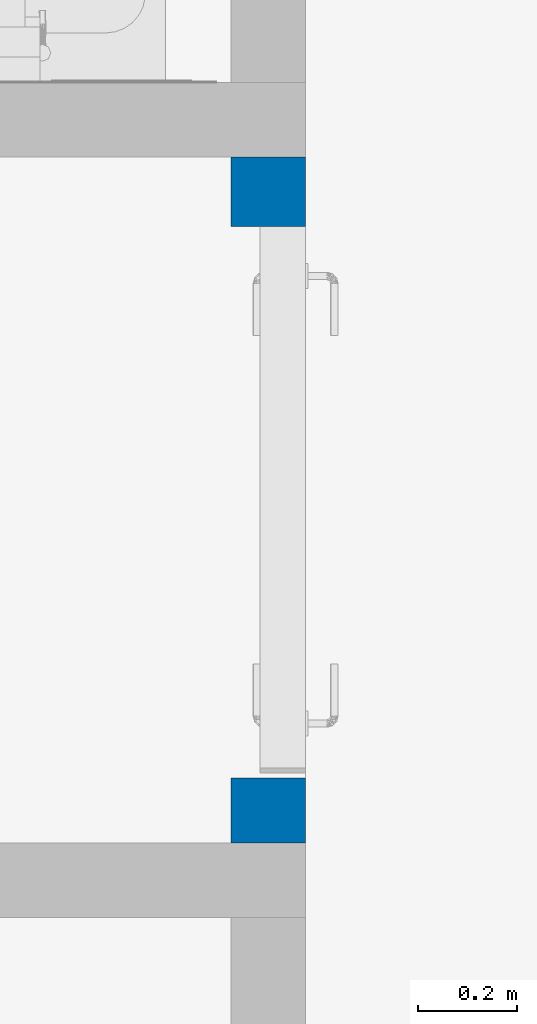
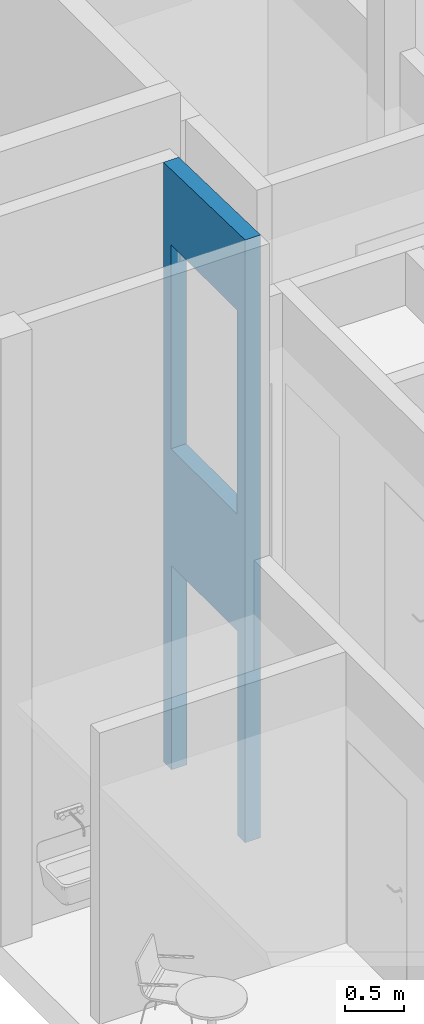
# One storey, part 6 of 58: 1 wall, 3 openings.
"""IFC2X3 building model written with IfcOpenShell, lengths in millimetres."""

from ifc_helpers import new_model, entity, si_unit, converted_unit, derived_unit, direction, frame, frame_2d, origin, place, context, subcontext, project, spatial, polyline, rectangle, extrude, clip, bounded_halfspace, material, layer, layer_set, layer_usage, type_object, element, save


model = new_model("IFC2X3")

# Units and contexts
model_context = context("Model", 3, precision=0.01, world=origin(), true_north=direction((0.7716245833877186, 0.6360782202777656)))
body_context = subcontext(model_context, "Body", "Model", "MODEL_VIEW")
ifc_project = project(units=[si_unit("LENGTHUNIT", "METRE", prefix="MILLI"), si_unit("AREAUNIT", "SQUARE_METRE"), converted_unit("PLANEANGLEUNIT", "DEGREE", entity("IfcPlaneAngleMeasure", 0.017453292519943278), si_unit("PLANEANGLEUNIT", "RADIAN"), dimensions=[0, 0, 0, 0, 0, 0, 0]), derived_unit("THERMALTRANSMITTANCEUNIT", [(si_unit("MASSUNIT", "GRAM", prefix="KILO"), 1), (si_unit("THERMODYNAMICTEMPERATUREUNIT", "KELVIN"), -1), (si_unit("TIMEUNIT", "SECOND"), -3)])], contexts=[model_context])

# Site, building, storey
site_placement = place(None, origin())
site = spatial("IfcSite", under=ifc_project, at=site_placement, Name="Default", CompositionType="ELEMENT")
building_placement = place(site_placement, origin())
building = spatial("IfcBuilding", under=site, at=building_placement, CompositionType="ELEMENT")
storey_placement = place(building_placement, frame((0.0, 0.0, 31140.0)))
storey = spatial("IfcBuildingStorey", under=building, at=storey_placement, Name="PLAN U1", CompositionType="ELEMENT", Elevation=31140.000000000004)

# Wall, openings
ifc_material = material(Name="Betong plasstøpt")
ifc_layer = layer(ifc_material, 150.0)
ifc_layer_set = layer_set([ifc_layer], Name="Basic Wall:240 Innervegg betong 150 mm")
ifc_layer_usage = layer_usage(ifc_layer_set, "AXIS2", "NEGATIVE", 75.0)
wall_type = type_object("IfcWallType", Name="Basic Wall:240 Innervegg betong 150 mm", PredefinedType="STANDARD", material=ifc_layer_set)
wall_placement = place(storey_placement, frame((261192.9244464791, 60844.50163955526, 0.0), z_axis=(0.0, 0.0, 1.0), x_axis=(0.0, -1.0, 0.0)))
wall = element("IfcWallStandardCase", 1, at=wall_placement, inside=storey, type_object=wall_type, material=ifc_layer_usage, Name="Basic Wall:240 Innervegg betong 150 mm", ObjectType="Basic Wall:240 Innervegg betong 150 mm", context=body_context, shape_type="Clipping", body=[
    clip(extrude(rectangle(XDim=1380.2460894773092, YDim=150.00000000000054, at=frame_2d((690.1230447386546, 0.0), x_axis=(1.0, 0.0))), origin(), (0.0, 0.0, 1.0), 6207.663630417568), bounded_halfspace(frame((0.0, -75.0, 6171.520614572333), z_axis=(-0.026176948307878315, 0.0, 0.9996573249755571), x_axis=(0.0, -1.0, 0.0)), False, frame((0.0, -75.0, 6171.520614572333)), polyline([(0.0, 0.0), (1380.2460894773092, 0.0), (1380.2460894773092, 150.0), (0.0, 150.0), (0.0, 0.0)]))),
])
opening_1_placement = place(wall_placement, frame((129.24608947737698, -75.0, 3300.0)))
element("IfcOpeningElement", 2, at=opening_1_placement, cuts=wall, Name="Enfløyet:244 Innvendig AAa 11x21M - Tett:1", ObjectType="Opening", context=body_context, shape_type="SweptSolid", body=[
    extrude(rectangle(XDim=2100.0, YDim=1109.9999999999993, at=frame_2d((1049.9999999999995, 554.9999999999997), x_axis=(1.0, 0.0))), frame((0.0, 0.0, 0.0), z_axis=(0.0, 1.0, 0.0), x_axis=(0.0, 0.0, 1.0)), (0.0, 0.0, 1.0), 150.0),
])
opening_2_placement = place(wall_placement, frame((60844.50163955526, -261192.9244464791, 3300.0), z_axis=(0.0, 0.0, 1.0), x_axis=(0.0, 1.0, 0.0)))
element("IfcOpeningElement", 3, at=opening_2_placement, cuts=wall, Name="Basic Wall:240 Innervegg betong 150 mm", ObjectType="Opening", context=body_context, shape_type="SweptSolid", body=[
    extrude(rectangle(XDim=2099.999999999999, YDim=1109.9999999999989, at=frame_2d((-4.320099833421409e-12, -4.320099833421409e-12), x_axis=(0.0, 1.0))), frame((259593.9244464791, 60160.25555007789, 1050.0), z_axis=(1.0, 0.0, 0.0), x_axis=(0.0, 1.0, 0.0)), (0.0, 0.0, 1.0), 3048.0),
])
opening_3_placement = place(wall_placement, frame((140.0, -75.0, 0.0)))
element("IfcOpeningElement", 4, at=opening_3_placement, cuts=wall, Name="Enfløyet:244 Innvendig AAa 11x21M - Tett:1", ObjectType="Opening", context=body_context, shape_type="SweptSolid", body=[
    extrude(rectangle(XDim=2100.0, YDim=1109.9999999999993, at=frame_2d((1049.9999999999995, 554.9999999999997), x_axis=(1.0, 0.0))), frame((0.0, 0.0, 0.0), z_axis=(0.0, 1.0, 0.0), x_axis=(0.0, 0.0, 1.0)), (0.0, 0.0, 1.0), 150.0),
])

save(model, "model.ifc")
